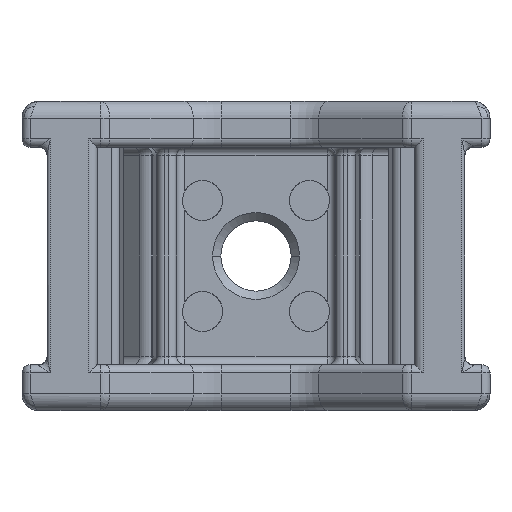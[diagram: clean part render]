
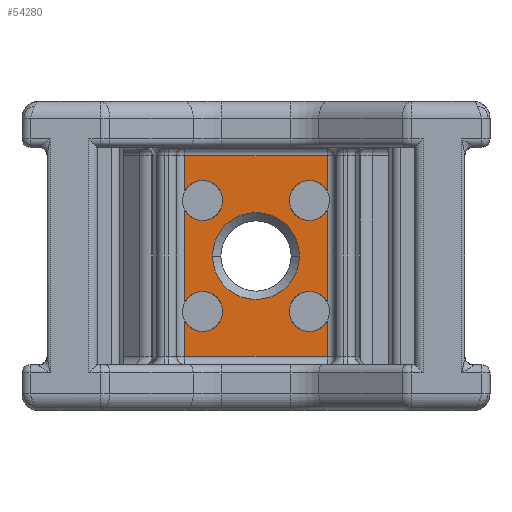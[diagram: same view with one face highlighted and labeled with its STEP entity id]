
A CAD part, front view. The second image highlights one B-rep face of the part: STEP entity #54280.
In plain terms, the highlighted planar face has unit normal (0, -1, 0).
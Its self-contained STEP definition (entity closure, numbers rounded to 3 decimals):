
#52900=CARTESIAN_POINT('',(74.464,-21.46,-1.75));
#52910=DIRECTION('',(0.,-1.,0.));
#52920=DIRECTION('',(1.,0.,0.));
#52930=AXIS2_PLACEMENT_3D('',#52900,#52910,#52920);
#52940=PLANE('',#52930);
#52950=CARTESIAN_POINT('',(78.714,-21.46,-8.25));
#52960=DIRECTION('',(0.,-1.,0.));
#52970=DIRECTION('',(1.,0.,0.));
#52980=AXIS2_PLACEMENT_3D('',#52950,#52960,#52970);
#52990=CIRCLE('',#52980,2.6);
#53000=CARTESIAN_POINT('',(81.314,-21.46,-8.25));
#53010=VERTEX_POINT('',#53000);
#53020=CARTESIAN_POINT('',(76.114,-21.46,-8.25));
#53030=VERTEX_POINT('',#53020);
#53040=EDGE_CURVE('',#53010,#53030,#52990,.T.);
#53050=ORIENTED_EDGE('',*,*,#53040,.F.);
#53060=EDGE_CURVE('',#53030,#53010,#52990,.T.);
#53070=ORIENTED_EDGE('',*,*,#53060,.F.);
#53080=EDGE_LOOP('',(#53070,#53050));
#53090=FACE_BOUND('',#53080,.T.);
#53100=CARTESIAN_POINT('',(81.914,-21.46,
-4.93));
#53110=DIRECTION('',(0.,-1.,0.));
#53120=DIRECTION('',(-1.,0.,0.));
#53130=AXIS2_PLACEMENT_3D('',#53100,#53110,#53120);
#53140=CIRCLE('',#53130,1.2);
#53150=CARTESIAN_POINT('',(82.964,-21.46,
-4.349));
#53160=VERTEX_POINT('',#53150);
#53170=CARTESIAN_POINT('',(80.714,-21.46,
-4.93));
#53180=VERTEX_POINT('',#53170);
#53190=EDGE_CURVE('',#53160,#53180,#53140,.T.);
#53200=ORIENTED_EDGE('',*,*,#53190,.F.);
#53210=CARTESIAN_POINT('',(82.964,-21.46,
-5.511));
#53220=VERTEX_POINT('',#53210);
#53230=EDGE_CURVE('',#53180,#53220,#53140,.T.);
#53240=ORIENTED_EDGE('',*,*,#53230,.F.);
#53250=CARTESIAN_POINT('',(82.964,-21.46,-8.25));
#53260=DIRECTION('',(0.,0.,1.));
#53270=VECTOR('',#53260,1.);
#53280=LINE('',#53250,#53270);
#53290=CARTESIAN_POINT('',(82.964,-21.46,
-10.989));
#53300=VERTEX_POINT('',#53290);
#53310=EDGE_CURVE('',#53300,#53220,#53280,.T.);
#53320=ORIENTED_EDGE('',*,*,#53310,.T.);
#53330=CARTESIAN_POINT('',(81.914,-21.46,-11.57));
#53340=DIRECTION('',(0.,-1.,0.));
#53350=DIRECTION('',(-1.,0.,0.));
#53360=AXIS2_PLACEMENT_3D('',#53330,#53340,#53350);
#53370=CIRCLE('',#53360,1.2);
#53380=CARTESIAN_POINT('',(80.714,-21.46,-11.57));
#53390=VERTEX_POINT('',#53380);
#53400=EDGE_CURVE('',#53300,#53390,#53370,.T.);
#53410=ORIENTED_EDGE('',*,*,#53400,.F.);
#53420=CARTESIAN_POINT('',(82.964,-21.46,
-12.151));
#53430=VERTEX_POINT('',#53420);
#53440=EDGE_CURVE('',#53390,#53430,#53370,.T.);
#53450=ORIENTED_EDGE('',*,*,#53440,.F.);
#53460=CARTESIAN_POINT('',(82.964,-21.46,-8.25));
#53470=DIRECTION('',(0.,0.,1.));
#53480=VECTOR('',#53470,1.);
#53490=LINE('',#53460,#53480);
#53500=CARTESIAN_POINT('',(82.964,-21.46,-14.25));
#53510=VERTEX_POINT('',#53500);
#53520=EDGE_CURVE('',#53510,#53430,#53490,.T.);
#53530=ORIENTED_EDGE('',*,*,#53520,.T.);
#53540=CARTESIAN_POINT('',(78.714,-21.46,-14.25));
#53550=DIRECTION('',(-1.,0.,0.));
#53560=VECTOR('',#53550,1.);
#53570=LINE('',#53540,#53560);
#53580=CARTESIAN_POINT('',(74.464,-21.46,-14.25));
#53590=VERTEX_POINT('',#53580);
#53600=EDGE_CURVE('',#53510,#53590,#53570,.T.);
#53610=ORIENTED_EDGE('',*,*,#53600,.F.);
#53620=CARTESIAN_POINT('',(74.464,-21.46,-8.25));
#53630=DIRECTION('',(0.,0.,-1.));
#53640=VECTOR('',#53630,1.);
#53650=LINE('',#53620,#53640);
#53660=CARTESIAN_POINT('',(74.464,-21.46,
-12.151));
#53670=VERTEX_POINT('',#53660);
#53680=EDGE_CURVE('',#53670,#53590,#53650,.T.);
#53690=ORIENTED_EDGE('',*,*,#53680,.T.);
#53700=CARTESIAN_POINT('',(75.514,-21.46,-11.57));
#53710=DIRECTION('',(0.,-1.,0.));
#53720=DIRECTION('',(-1.,0.,0.));
#53730=AXIS2_PLACEMENT_3D('',#53700,#53710,#53720);
#53740=CIRCLE('',#53730,1.2);
#53750=CARTESIAN_POINT('',(76.714,-21.46,-11.57));
#53760=VERTEX_POINT('',#53750);
#53770=EDGE_CURVE('',#53670,#53760,#53740,.T.);
#53780=ORIENTED_EDGE('',*,*,#53770,.F.);
#53790=CARTESIAN_POINT('',(74.464,-21.46,
-10.989));
#53800=VERTEX_POINT('',#53790);
#53810=EDGE_CURVE('',#53760,#53800,#53740,.T.);
#53820=ORIENTED_EDGE('',*,*,#53810,.F.);
#53830=CARTESIAN_POINT('',(74.464,-21.46,-8.25));
#53840=DIRECTION('',(0.,0.,-1.));
#53850=VECTOR('',#53840,1.);
#53860=LINE('',#53830,#53850);
#53870=CARTESIAN_POINT('',(74.464,-21.46,
-5.511));
#53880=VERTEX_POINT('',#53870);
#53890=EDGE_CURVE('',#53880,#53800,#53860,.T.);
#53900=ORIENTED_EDGE('',*,*,#53890,.T.);
#53910=CARTESIAN_POINT('',(75.514,-21.46,
-4.93));
#53920=DIRECTION('',(0.,-1.,0.));
#53930=DIRECTION('',(-1.,0.,0.));
#53940=AXIS2_PLACEMENT_3D('',#53910,#53920,#53930);
#53950=CIRCLE('',#53940,1.2);
#53960=CARTESIAN_POINT('',(76.714,-21.46,
-4.93));
#53970=VERTEX_POINT('',#53960);
#53980=EDGE_CURVE('',#53880,#53970,#53950,.T.);
#53990=ORIENTED_EDGE('',*,*,#53980,.F.);
#54000=CARTESIAN_POINT('',(74.464,-21.46,
-4.349));
#54010=VERTEX_POINT('',#54000);
#54020=EDGE_CURVE('',#53970,#54010,#53950,.T.);
#54030=ORIENTED_EDGE('',*,*,#54020,.F.);
#54040=CARTESIAN_POINT('',(74.464,-21.46,-8.25));
#54050=DIRECTION('',(0.,0.,-1.));
#54060=VECTOR('',#54050,1.);
#54070=LINE('',#54040,#54060);
#54080=CARTESIAN_POINT('',(74.464,-21.46,-2.25));
#54090=VERTEX_POINT('',#54080);
#54100=EDGE_CURVE('',#54090,#54010,#54070,.T.);
#54110=ORIENTED_EDGE('',*,*,#54100,.T.);
#54120=CARTESIAN_POINT('',(78.714,-21.46,-2.25));
#54130=DIRECTION('',(1.,0.,0.));
#54140=VECTOR('',#54130,1.);
#54150=LINE('',#54120,#54140);
#54160=CARTESIAN_POINT('',(82.964,-21.46,-2.25));
#54170=VERTEX_POINT('',#54160);
#54180=EDGE_CURVE('',#54090,#54170,#54150,.T.);
#54190=ORIENTED_EDGE('',*,*,#54180,.F.);
#54200=CARTESIAN_POINT('',(82.964,-21.46,-8.25));
#54210=DIRECTION('',(0.,0.,1.));
#54220=VECTOR('',#54210,1.);
#54230=LINE('',#54200,#54220);
#54240=EDGE_CURVE('',#53160,#54170,#54230,.T.);
#54250=ORIENTED_EDGE('',*,*,#54240,.T.);
#54260=EDGE_LOOP('',(#54250,#54190,#54110,#54030,#53990,#53900,#53820,
#53780,#53690,#53610,#53530,#53450,#53410,#53320,#53240,#53200));
#54270=FACE_OUTER_BOUND('',#54260,.T.);
#54280=ADVANCED_FACE('',(#53090,#54270),#52940,.T.);
